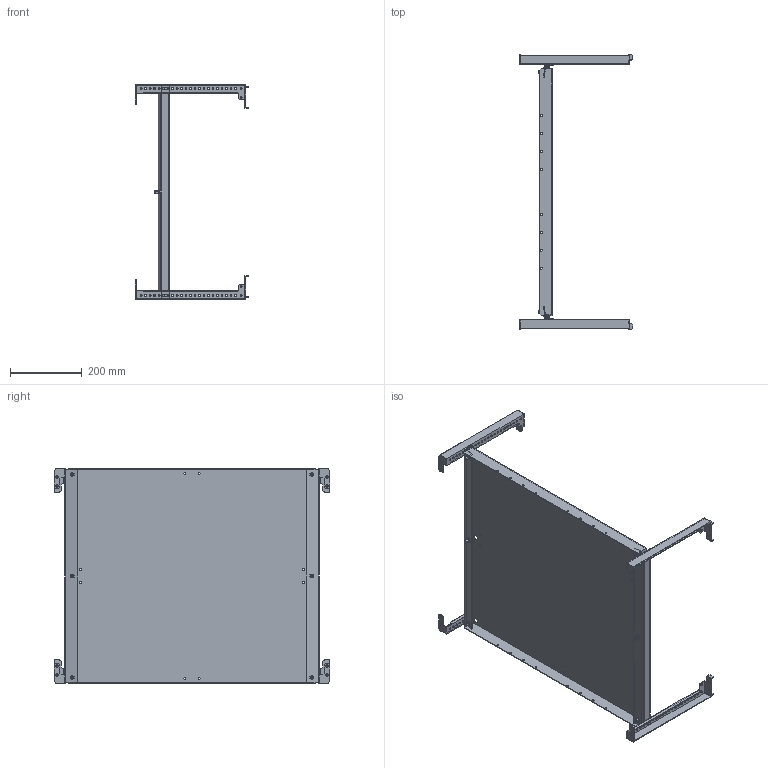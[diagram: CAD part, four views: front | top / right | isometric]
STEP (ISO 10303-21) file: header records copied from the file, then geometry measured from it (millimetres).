
FILE_DESCRIPTION (( 'STEP AP214' ), '1' );
FILE_NAME ('FO-00-MPU-060-080 Ïàíåëü ìîíòàæíàÿ óíèâåðñàëüíàÿ 600?800 ìì.STEP', '2025-07-16T07:08:35', ( '' ), ( '' ), 'SwSTEP 2.0', 'SolidWorks 2023', '' );
FILE_SCHEMA (( 'AUTOMOTIVE_DESIGN' ));
Length unit declared in the file: millimetre
Products named in the file (5): Траверса горизонтальная; Траверса горизонтальнаяD; Винты DIN 912 4xM6x20 600x800; FO-00-MPU-060-080 Панель монтажная универсальная 600×800 мм; Панель монтажная универсальная 600×800
Assembly tree (6 placements, depth 2):
  FO-00-MPU-060-080 Панель монтажная универсальная 600×800 мм
    Винты DIN 912 4xM6x20 600x800
    Панель монтажная универсальная 600×800
    Траверса горизонтальная  x2
    Траверса горизонтальнаяD  x2
Bounding box: 314.5 x 766 x 597 mm (x, y, z)
Volume: 1358267.5 mm3; surface area: 1381792.8 mm2
Topology: 9 solids, 15 shells, 1146 faces, 3064 edges, 2016 vertices
Faces by surface type: cylinder 516, plane 514, cone 76, torus 40
Entity records: 30511 total; most frequent: CARTESIAN_POINT 6615, DIRECTION 5076, ORIENTED_EDGE 4796, EDGE_CURVE 2398, AXIS2_PLACEMENT_3D 1865, VERTEX_POINT 1572, VECTOR 1346, LINE 1346
